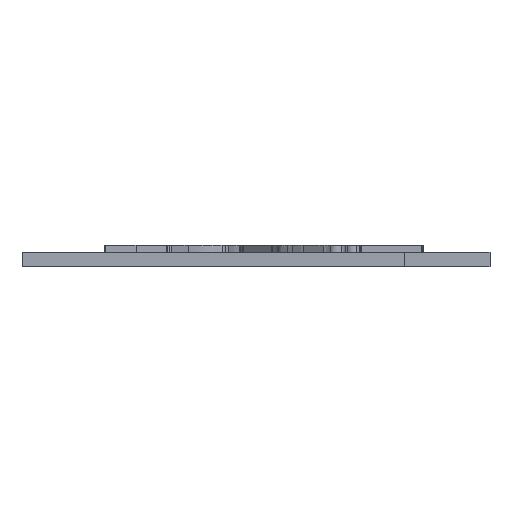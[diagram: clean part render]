
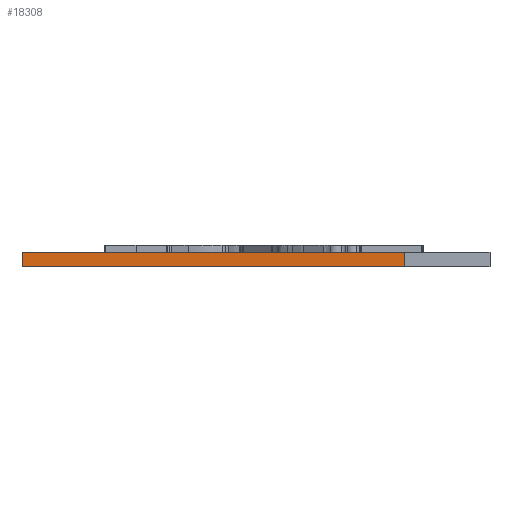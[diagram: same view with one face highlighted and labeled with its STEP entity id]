
A CAD part, left-side view. The second image highlights one B-rep face of the part: STEP entity #18308.
In plain terms, the highlighted planar face has unit normal (-1, 0, 0).
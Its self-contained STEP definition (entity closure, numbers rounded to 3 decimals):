
#1905=PLANE('',#19455);
#2879=FACE_OUTER_BOUND('',#3905,.T.);
#3905=EDGE_LOOP('',(#17133,#17134,#17135,#17136));
#4060=LINE('',#23992,#5449);
#5292=LINE('',#38698,#6681);
#5293=LINE('',#38701,#6682);
#5294=LINE('',#38702,#6683);
#5449=VECTOR('',#19852,10.);
#6681=VECTOR('',#23116,10.);
#6682=VECTOR('',#23119,10.);
#6683=VECTOR('',#23120,10.);
#7184=VERTEX_POINT('',#23989);
#7185=VERTEX_POINT('',#23991);
#8869=VERTEX_POINT('',#38696);
#8870=VERTEX_POINT('',#38700);
#9102=EDGE_CURVE('',#7184,#7185,#4060,.T.);
#11629=EDGE_CURVE('',#8869,#7185,#5292,.T.);
#11630=EDGE_CURVE('',#8870,#8869,#5293,.T.);
#11631=EDGE_CURVE('',#8870,#7184,#5294,.T.);
#17133=ORIENTED_EDGE('',*,*,#11630,.T.);
#17134=ORIENTED_EDGE('',*,*,#11629,.T.);
#17135=ORIENTED_EDGE('',*,*,#9102,.F.);
#17136=ORIENTED_EDGE('',*,*,#11631,.F.);
#18308=ADVANCED_FACE('',(#2879),#1905,.T.);
#19455=AXIS2_PLACEMENT_3D('',#38699,#23117,#23118);
#19852=DIRECTION('',(0.,-1.,0.));
#23116=DIRECTION('',(0.,0.,1.));
#23117=DIRECTION('center_axis',(-1.,0.,0.));
#23118=DIRECTION('ref_axis',(0.,-1.,0.));
#23119=DIRECTION('',(0.,-1.,0.));
#23120=DIRECTION('',(0.,0.,1.));
#23989=CARTESIAN_POINT('',(0.,66.,30.));
#23991=CARTESIAN_POINT('',(0.,12.,30.));
#23992=CARTESIAN_POINT('',(0.,66.,30.));
#38696=CARTESIAN_POINT('',(0.,12.,28.));
#38698=CARTESIAN_POINT('',(0.,12.,28.));
#38699=CARTESIAN_POINT('Origin',(0.,66.,28.));
#38700=CARTESIAN_POINT('',(0.,66.,28.));
#38701=CARTESIAN_POINT('',(0.,66.,28.));
#38702=CARTESIAN_POINT('',(0.,66.,28.));
